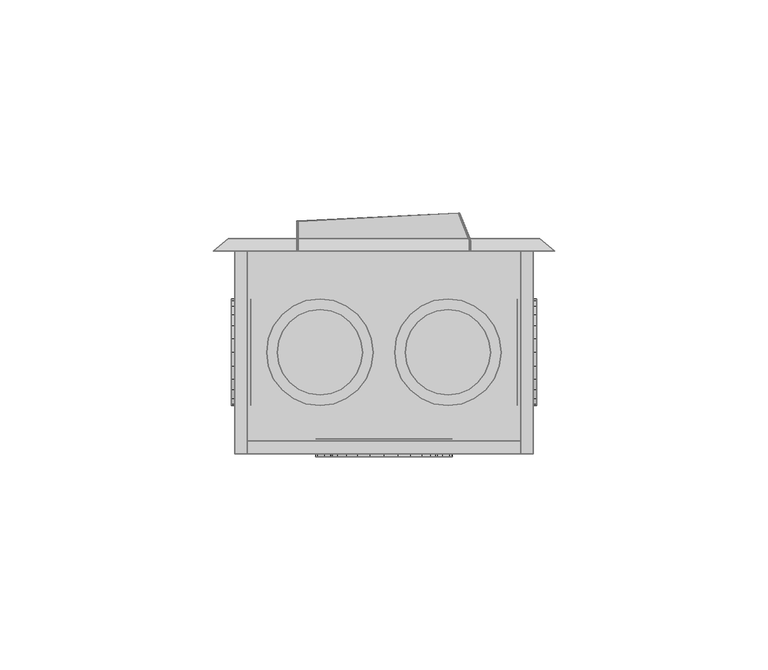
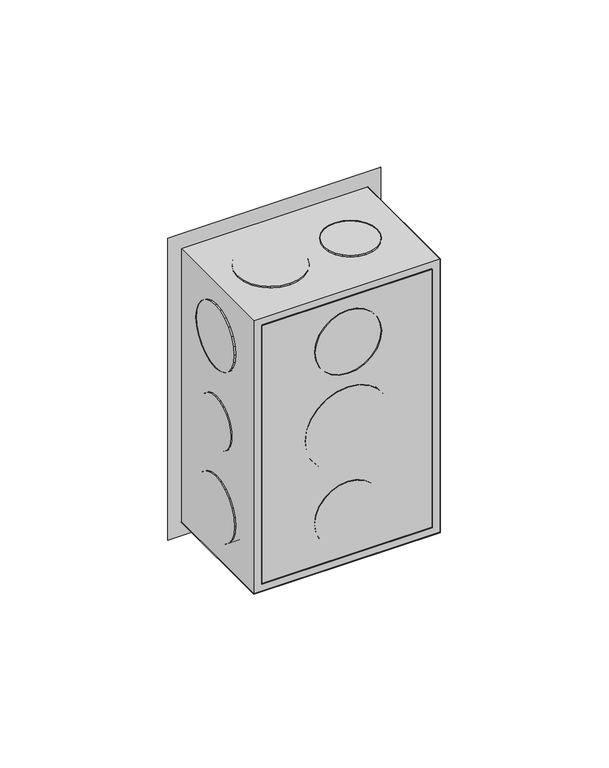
"""IFC4 building model written with IfcOpenShell, lengths in millimetres: proxy geometry,  210861 :  210861."""

from ifc_helpers import new_model, si_unit, origin, place, context, project, spatial, triangles, source, transform, mapped, element, save


def generic_models_3bf21136(model_context):
    return source(origin(), model_context, "Body", "Tessellation", [
        triangles([(5387.4002289, 29795.8998962, 1254.3000378), (5390.4000458, 29795.8998962, 1148.7000154), (5387.4002289, 29795.8998962, 1145.6999805), (5390.4000458, 29795.8998962, 1251.2999302), (5457.4000259, 29795.8998962, 1254.3000378), (5454.400209, 29795.8998962, 1251.2999302), (5457.4000259, 29795.8998962, 1145.6999805), (5454.400209, 29795.8998962, 1148.7000154), (5390.4000458, 29748.40047, 1251.2999302), (5390.4000458, 29748.40047, 1148.7000154), (5457.4000259, 29748.40047, 1254.3000378), (5457.4000259, 29748.40047, 1145.6999805), (5454.400209, 29748.40047, 1251.2999302), (5387.4002289, 29748.40047, 1145.6999805), (5454.400209, 29748.40047, 1148.7000154), (5387.4002289, 29748.40047, 1254.3000378), (5390.4000458, 29751.4002869, 1251.2999302), (5454.400209, 29751.4002869, 1148.7000154), (5390.4000458, 29751.4002869, 1148.7000154), (5454.400209, 29751.4002869, 1251.2999302), (5414.3997437, 29747.7005127, 1186.0999855), (5408.5001038, 29747.7005127, 1191.9999887), (5411.0999451, 29747.7005127, 1188.6999722), (5418.2000931, 29747.7005127, 1184.5000105), (5406.9002014, 29747.7005127, 1195.8999687), (5422.3998367, 29747.7005127, 1183.9999683), (5406.4002319, 29747.7005127, 1200.0000092), (5426.5001678, 29747.7005127, 1184.5000105), (5406.9002014, 29747.7005127, 1204.0999769), (5430.3999298, 29747.7005127, 1186.0999855), (5408.5001038, 29747.7005127, 1208.0000296), (5433.6997284, 29747.7005127, 1188.6999722), (5411.0999451, 29747.7005127, 1211.2999735), (5436.2001572, 29747.7005127, 1191.9999887), (5414.3997437, 29747.7005127, 1213.9000328), (5437.8000595, 29747.7005127, 1195.8999687), (5418.2000931, 29747.7005127, 1215.5000078), (5438.4000229, 29747.7005127, 1200.0000092), (5422.3998367, 29747.7005127, 1215.9999773), (5437.8000595, 29747.7005127, 1204.0999769), (5426.5001678, 29747.7005127, 1215.5000078), (5436.2001572, 29747.7005127, 1208.0000296), (5430.3999298, 29747.7005127, 1213.9000328), (5433.6997284, 29747.7005127, 1211.2999735), (5418.2000931, 29751.9002563, 1215.5000078), (5422.3998367, 29751.9002563, 1215.9999773), (5414.3997437, 29751.9002563, 1213.9000328), (5411.0999451, 29751.9002563, 1211.2999735), (5408.5001038, 29751.9002563, 1208.0000296), (5406.9002014, 29751.9002563, 1204.0999769), (5406.4002319, 29751.9002563, 1200.0000092), (5406.9002014, 29751.9002563, 1195.8999687), (5408.5001038, 29751.9002563, 1191.9999887), (5411.0999451, 29751.9002563, 1188.6999722), (5414.3997437, 29751.9002563, 1186.0999855), (5418.2000931, 29751.9002563, 1184.5000105), (5422.3998367, 29751.9002563, 1183.9999683), (5426.5001678, 29751.9002563, 1184.5000105), (5430.3999298, 29751.9002563, 1186.0999855), (5433.6997284, 29751.9002563, 1188.6999722), (5436.2001572, 29751.9002563, 1191.9999887), (5437.8000595, 29751.9002563, 1195.8999687), (5438.4000229, 29751.9002563, 1200.0000092), (5437.8000595, 29751.9002563, 1204.0999769), (5436.2001572, 29751.9002563, 1208.0000296), (5433.6997284, 29751.9002563, 1211.2999735), (5430.3999298, 29751.9002563, 1213.9000328), (5426.5001678, 29751.9002563, 1215.5000078), (5411.4999207, 29751.9002563, 1227.8000565), (5416.1002213, 29751.9002563, 1223.2000465), (5413.4997986, 29751.9002563, 1225.2000698), (5410.2999939, 29751.9002563, 1230.8000187), (5419.1000381, 29751.9002563, 1221.8999805), (5409.9000183, 29751.9002563, 1233.9999687), (5422.3998367, 29751.9002563, 1221.500005), (5410.2999939, 29751.9002563, 1237.2000641), (5425.6002228, 29751.9002563, 1221.8999805), (5411.4999207, 29751.9002563, 1240.3000202), (5428.6000397, 29751.9002563, 1223.2000465), (5413.4997986, 29751.9002563, 1242.800013), (5431.199881, 29751.9002563, 1225.2000698), (5433.1997589, 29751.9002563, 1227.8000565), (5416.1002213, 29751.9002563, 1244.8000362), (5419.1000381, 29751.9002563, 1246.0999569), (5434.400267, 29751.9002563, 1230.8000187), (5422.3998367, 29751.9002563, 1246.4999325), (5434.9002365, 29751.9002563, 1233.9999687), (5425.6002228, 29751.9002563, 1246.0999569), (5434.400267, 29751.9002563, 1237.2000641), (5433.1997589, 29751.9002563, 1240.3000202), (5428.6000397, 29751.9002563, 1244.8000362), (5431.199881, 29751.9002563, 1242.800013), (5434.400267, 29747.7005127, 1230.8000187), (5433.1997589, 29747.7005127, 1227.8000565), (5431.199881, 29747.7005127, 1225.2000698), (5428.6000397, 29747.7005127, 1223.2000465), (5425.6002228, 29747.7005127, 1221.8999805), (5422.3998367, 29747.7005127, 1221.500005), (5419.1000381, 29747.7005127, 1221.8999805), (5416.1002213, 29747.7005127, 1223.2000465), (5413.4997986, 29747.7005127, 1225.2000698), (5411.4999207, 29747.7005127, 1227.8000565), (5410.2999939, 29747.7005127, 1230.8000187), (5409.9000183, 29747.7005127, 1233.9999687), (5410.2999939, 29747.7005127, 1237.2000641), (5411.4999207, 29747.7005127, 1240.3000202), (5413.4997986, 29747.7005127, 1242.800013), (5416.1002213, 29747.7005127, 1244.8000362), (5419.1000381, 29747.7005127, 1246.0999569), (5422.3998367, 29747.7005127, 1246.4999325), (5425.6002228, 29747.7005127, 1246.0999569), (5428.6000397, 29747.7005127, 1244.8000362), (5431.199881, 29747.7005127, 1242.800013), (5433.1997589, 29747.7005127, 1240.3000202), (5434.400267, 29747.7005127, 1237.2000641), (5434.9002365, 29747.7005127, 1233.9999687), (5416.1002213, 29747.7005127, 1155.1999821), (5411.4999207, 29747.7005127, 1159.6999981), (5413.4997986, 29747.7005127, 1157.2000053), (5419.1000381, 29747.7005127, 1153.8999887), (5410.2999939, 29747.7005127, 1162.8000269), (5422.3998367, 29747.7005127, 1153.5000132), (5409.9000183, 29747.7005127, 1165.9999769), (5425.6002228, 29747.7005127, 1153.8999887), (5410.2999939, 29747.7005127, 1169.1999996), (5428.6000397, 29747.7005127, 1155.1999821), (5411.4999207, 29747.7005127, 1172.2000345), (5431.199881, 29747.7005127, 1157.2000053), (5413.4997986, 29747.7005127, 1174.8000212), (5433.1997589, 29747.7005127, 1159.6999981), (5416.1002213, 29747.7005127, 1176.7999718), (5434.400267, 29747.7005127, 1162.8000269), (5419.1000381, 29747.7005127, 1178.0999651), (5422.3998367, 29747.7005127, 1178.5000134), (5434.9002365, 29747.7005127, 1165.9999769), (5434.400267, 29747.7005127, 1169.1999996), (5425.6002228, 29747.7005127, 1178.0999651), (5433.1997589, 29747.7005127, 1172.2000345), (5428.6000397, 29747.7005127, 1176.7999718), (5431.199881, 29747.7005127, 1174.8000212), (5419.1000381, 29751.9002563, 1178.0999651), (5422.3998367, 29751.9002563, 1178.5000134), (5416.1002213, 29751.9002563, 1176.7999718), (5413.4997986, 29751.9002563, 1174.8000212), (5411.4999207, 29751.9002563, 1172.2000345), (5410.2999939, 29751.9002563, 1169.1999996), (5409.9000183, 29751.9002563, 1165.9999769), (5410.2999939, 29751.9002563, 1162.8000269), (5411.4999207, 29751.9002563, 1159.6999981), (5413.4997986, 29751.9002563, 1157.2000053), (5416.1002213, 29751.9002563, 1155.1999821), (5419.1000381, 29751.9002563, 1153.8999887), (5422.3998367, 29751.9002563, 1153.5000132), (5425.6002228, 29751.9002563, 1153.8999887), (5428.6000397, 29751.9002563, 1155.1999821), (5431.199881, 29751.9002563, 1157.2000053), (5433.1997589, 29751.9002563, 1159.6999981), (5434.400267, 29751.9002563, 1162.8000269), (5434.9002365, 29751.9002563, 1165.9999769), (5434.400267, 29751.9002563, 1169.1999996), (5433.1997589, 29751.9002563, 1172.2000345), (5431.199881, 29751.9002563, 1174.8000212), (5428.6000397, 29751.9002563, 1176.7999718), (5425.6002228, 29751.9002563, 1178.0999651), (5386.6002777, 29763.4995483, 1195.0000237), (5386.6002777, 29767.1993225, 1191.3000315), (5386.6002777, 29765.0994507, 1192.9000065), (5386.6002777, 29762.4996094, 1197.4000225), (5386.6002777, 29769.599176, 1190.3000198), (5386.6002777, 29762.1996277, 1200.0000092), (5386.6002777, 29772.1990173, 1189.9999655), (5386.6002777, 29762.4996094, 1202.5999958), (5386.6002777, 29774.7988586, 1190.3000198), (5386.6002777, 29763.4995483, 1204.9999947), (5386.6002777, 29777.2010376, 1191.3000315), (5386.6002777, 29765.0994507, 1207.1000118), (5386.6002777, 29779.3009094, 1192.9000065), (5386.6002777, 29767.1993225, 1208.6999868), (5386.6002777, 29780.9008118, 1195.0000237), (5386.6002777, 29769.599176, 1209.6999985), (5386.6002777, 29781.9007507, 1197.4000225), (5386.6002777, 29782.2007324, 1200.0000092), (5386.6002777, 29772.1990173, 1209.9999802), (5386.6002777, 29774.7988586, 1209.6999985), (5386.6002777, 29781.9007507, 1202.5999958), (5386.6002777, 29777.2010376, 1208.6999868), (5386.6002777, 29780.9008118, 1204.9999947), (5386.6002777, 29779.3009094, 1207.1000118), (5391.1999969, 29769.599176, 1209.6999985), (5391.1999969, 29772.1990173, 1209.9999802), (5391.1999969, 29774.7988586, 1209.6999985), (5391.1999969, 29777.2010376, 1208.6999868), (5391.1999969, 29779.3009094, 1207.1000118), (5391.1999969, 29780.9008118, 1204.9999947), (5391.1999969, 29781.9007507, 1202.5999958), (5391.1999969, 29782.2007324, 1200.0000092), (5391.1999969, 29781.9007507, 1197.4000225), (5391.1999969, 29780.9008118, 1195.0000237), (5391.1999969, 29779.3009094, 1192.9000065), (5391.1999969, 29777.2010376, 1191.3000315), (5391.1999969, 29774.7988586, 1190.3000198), (5391.1999969, 29772.1990173, 1189.9999655), (5391.1999969, 29769.599176, 1190.3000198), (5391.1999969, 29767.1993225, 1191.3000315), (5391.1999969, 29765.0994507, 1192.9000065), (5391.1999969, 29763.4995483, 1195.0000237), (5391.1999969, 29762.4996094, 1197.4000225), (5391.1999969, 29762.1996277, 1200.0000092), (5391.1999969, 29762.4996094, 1202.5999958), (5391.1999969, 29763.4995483, 1204.9999947), (5391.1999969, 29765.0994507, 1207.1000118), (5391.1999969, 29767.1993225, 1208.6999868), (5391.1999969, 29765.8994019, 1223.2000465), (5391.1999969, 29761.3996765, 1227.8000565), (5391.1999969, 29763.3995544, 1225.2000698), (5391.1999969, 29768.9992126, 1221.8999805), (5391.1999969, 29760.0997559, 1230.8000187), (5391.1999969, 29759.6997803, 1233.9999687), (5391.1999969, 29772.1990173, 1221.500005), (5391.1999969, 29775.4011475, 1221.8999805), (5391.1999969, 29760.0997559, 1237.2000641), (5391.1999969, 29761.3996765, 1240.3000202), (5391.1999969, 29778.4009644, 1223.2000465), (5391.1999969, 29781.0008057, 1225.2000698), (5391.1999969, 29763.3995544, 1242.800013), (5391.1999969, 29783.0006836, 1227.8000565), (5391.1999969, 29765.8994019, 1244.8000362), (5391.1999969, 29784.3006042, 1230.8000187), (5391.1999969, 29768.9992126, 1246.0999569), (5391.1999969, 29784.7005798, 1233.9999687), (5391.1999969, 29772.1990173, 1246.4999325), (5391.1999969, 29784.3006042, 1237.2000641), (5391.1999969, 29775.4011475, 1246.0999569), (5391.1999969, 29783.0006836, 1240.3000202), (5391.1999969, 29778.4009644, 1244.8000362), (5391.1999969, 29781.0008057, 1242.800013), (5386.6002777, 29772.1990173, 1221.500005), (5386.6002777, 29768.9992126, 1221.8999805), (5386.6002777, 29775.4011475, 1221.8999805), (5386.6002777, 29778.4009644, 1223.2000465), (5386.6002777, 29781.0008057, 1225.2000698), (5386.6002777, 29783.0006836, 1227.8000565), (5386.6002777, 29784.3006042, 1230.8000187), (5386.6002777, 29784.7005798, 1233.9999687), (5386.6002777, 29784.3006042, 1237.2000641), (5386.6002777, 29783.0006836, 1240.3000202), (5386.6002777, 29781.0008057, 1242.800013), (5386.6002777, 29778.4009644, 1244.8000362), (5386.6002777, 29775.4011475, 1246.0999569), (5386.6002777, 29772.1990173, 1246.4999325), (5386.6002777, 29768.9992126, 1246.0999569), (5386.6002777, 29765.8994019, 1244.8000362), (5386.6002777, 29763.3995544, 1242.800013), (5386.6002777, 29761.3996765, 1240.3000202), (5386.6002777, 29760.0997559, 1237.2000641), (5386.6002777, 29759.6997803, 1233.9999687), (5386.6002777, 29760.0997559, 1230.8000187), (5386.6002777, 29761.3996765, 1227.8000565), (5386.6002777, 29763.3995544, 1225.2000698), (5386.6002777, 29765.8994019, 1223.2000465), (5386.6002777, 29761.3996765, 1159.6999981), (5386.6002777, 29765.8994019, 1155.1999821), (5386.6002777, 29763.3995544, 1157.2000053), (5386.6002777, 29760.0997559, 1162.8000269), (5386.6002777, 29768.9992126, 1153.8999887), (5386.6002777, 29759.6997803, 1165.9999769), (5386.6002777, 29772.1990173, 1153.5000132), (5386.6002777, 29760.0997559, 1169.1999996), (5386.6002777, 29775.4011475, 1153.8999887), (5386.6002777, 29761.3996765, 1172.2000345), (5386.6002777, 29778.4009644, 1155.1999821), (5386.6002777, 29763.3995544, 1174.8000212), (5386.6002777, 29781.0008057, 1157.2000053), (5386.6002777, 29765.8994019, 1176.7999718), (5386.6002777, 29783.0006836, 1159.6999981), (5386.6002777, 29768.9992126, 1178.0999651), (5386.6002777, 29784.3006042, 1162.8000269), (5386.6002777, 29772.1990173, 1178.5000134), (5386.6002777, 29784.7005798, 1165.9999769), (5386.6002777, 29775.4011475, 1178.0999651), (5386.6002777, 29784.3006042, 1169.1999996), (5386.6002777, 29778.4009644, 1176.7999718), (5386.6002777, 29783.0006836, 1172.2000345), (5386.6002777, 29781.0008057, 1174.8000212), (5391.1999969, 29768.9992126, 1178.0999651), (5391.1999969, 29772.1990173, 1178.5000134), (5391.1999969, 29775.4011475, 1178.0999651), (5391.1999969, 29778.4009644, 1176.7999718), (5391.1999969, 29781.0008057, 1174.8000212), (5391.1999969, 29783.0006836, 1172.2000345), (5391.1999969, 29784.3006042, 1169.1999996), (5391.1999969, 29784.7005798, 1165.9999769), (5391.1999969, 29784.3006042, 1162.8000269), (5391.1999969, 29783.0006836, 1159.6999981), (5391.1999969, 29781.0008057, 1157.2000053), (5391.1999969, 29778.4009644, 1155.1999821), (5391.1999969, 29775.4011475, 1153.8999887), (5391.1999969, 29772.1990173, 1153.5000132), (5391.1999969, 29768.9992126, 1153.8999887), (5391.1999969, 29765.8994019, 1155.1999821), (5391.1999969, 29763.3995544, 1157.2000053), (5391.1999969, 29761.3996765, 1159.6999981), (5391.1999969, 29760.0997559, 1162.8000269), (5391.1999969, 29759.6997803, 1165.9999769), (5391.1999969, 29760.0997559, 1169.1999996), (5391.1999969, 29761.3996765, 1172.2000345), (5391.1999969, 29763.3995544, 1174.8000212), (5391.1999969, 29765.8994019, 1176.7999718), (5458.1999771, 29767.1993225, 1191.3000315), (5458.1999771, 29763.4995483, 1195.0000237), (5458.1999771, 29765.0994507, 1192.9000065), (5458.1999771, 29762.4996094, 1197.4000225), (5458.1999771, 29769.599176, 1190.3000198), (5458.1999771, 29762.1996277, 1200.0000092), (5458.1999771, 29772.1990173, 1189.9999655), (5458.1999771, 29774.7988586, 1190.3000198), (5458.1999771, 29762.4996094, 1202.5999958), (5458.1999771, 29763.4995483, 1204.9999947), (5458.1999771, 29777.2010376, 1191.3000315), (5458.1999771, 29765.0994507, 1207.1000118), (5458.1999771, 29779.3009094, 1192.9000065), (5458.1999771, 29780.9008118, 1195.0000237), (5458.1999771, 29767.1993225, 1208.6999868), (5458.1999771, 29781.9007507, 1197.4000225), (5458.1999771, 29769.599176, 1209.6999985), (5458.1999771, 29782.2007324, 1200.0000092), (5458.1999771, 29772.1990173, 1209.9999802), (5458.1999771, 29781.9007507, 1202.5999958), (5458.1999771, 29774.7988586, 1209.6999985), (5458.1999771, 29777.2010376, 1208.6999868), (5458.1999771, 29780.9008118, 1204.9999947), (5458.1999771, 29779.3009094, 1207.1000118), (5453.6002579, 29769.599176, 1190.3000198), (5453.6002579, 29767.1993225, 1191.3000315), (5453.6002579, 29772.1990173, 1189.9999655), (5453.6002579, 29774.7988586, 1190.3000198), (5453.6002579, 29777.2010376, 1191.3000315), (5453.6002579, 29779.3009094, 1192.9000065), (5453.6002579, 29780.9008118, 1195.0000237), (5453.6002579, 29781.9007507, 1197.4000225), (5453.6002579, 29782.2007324, 1200.0000092), (5453.6002579, 29781.9007507, 1202.5999958), (5453.6002579, 29780.9008118, 1204.9999947), (5453.6002579, 29779.3009094, 1207.1000118), (5453.6002579, 29777.2010376, 1208.6999868), (5453.6002579, 29774.7988586, 1209.6999985), (5453.6002579, 29772.1990173, 1209.9999802), (5453.6002579, 29769.599176, 1209.6999985), (5453.6002579, 29767.1993225, 1208.6999868), (5453.6002579, 29765.0994507, 1207.1000118), (5453.6002579, 29763.4995483, 1204.9999947), (5453.6002579, 29762.4996094, 1202.5999958), (5453.6002579, 29762.1996277, 1200.0000092), (5453.6002579, 29762.4996094, 1197.4000225), (5453.6002579, 29763.4995483, 1195.0000237), (5453.6002579, 29765.0994507, 1192.9000065), (5453.6002579, 29761.3996765, 1159.6999981), (5453.6002579, 29765.8994019, 1155.1999821), (5453.6002579, 29763.3995544, 1157.2000053), (5453.6002579, 29760.0997559, 1162.8000269), (5453.6002579, 29768.9992126, 1153.8999887), (5453.6002579, 29759.6997803, 1165.9999769), (5453.6002579, 29772.1990173, 1153.5000132), (5453.6002579, 29760.0997559, 1169.1999996), (5453.6002579, 29775.4011475, 1153.8999887), (5453.6002579, 29761.3996765, 1172.2000345), (5453.6002579, 29778.4009644, 1155.1999821), (5453.6002579, 29763.3995544, 1174.8000212), (5453.6002579, 29781.0008057, 1157.2000053), (5453.6002579, 29765.8994019, 1176.7999718), (5453.6002579, 29783.0006836, 1159.6999981), (5453.6002579, 29768.9992126, 1178.0999651), (5453.6002579, 29784.3006042, 1162.8000269), (5453.6002579, 29772.1990173, 1178.5000134), (5453.6002579, 29784.7005798, 1165.9999769), (5453.6002579, 29775.4011475, 1178.0999651), (5453.6002579, 29784.3006042, 1169.1999996), (5453.6002579, 29778.4009644, 1176.7999718), (5453.6002579, 29783.0006836, 1172.2000345), (5453.6002579, 29781.0008057, 1174.8000212), (5458.1999771, 29768.9992126, 1178.0999651), (5458.1999771, 29772.1990173, 1178.5000134), (5458.1999771, 29775.4011475, 1178.0999651), (5458.1999771, 29778.4009644, 1176.7999718), (5458.1999771, 29781.0008057, 1174.8000212), (5458.1999771, 29783.0006836, 1172.2000345), (5458.1999771, 29784.3006042, 1169.1999996), (5458.1999771, 29784.7005798, 1165.9999769), (5458.1999771, 29784.3006042, 1162.8000269), (5458.1999771, 29783.0006836, 1159.6999981), (5458.1999771, 29781.0008057, 1157.2000053), (5458.1999771, 29778.4009644, 1155.1999821), (5458.1999771, 29775.4011475, 1153.8999887), (5458.1999771, 29772.1990173, 1153.5000132), (5458.1999771, 29768.9992126, 1153.8999887), (5458.1999771, 29765.8994019, 1155.1999821), (5458.1999771, 29763.3995544, 1157.2000053), (5458.1999771, 29761.3996765, 1159.6999981), (5458.1999771, 29760.0997559, 1162.8000269), (5458.1999771, 29759.6997803, 1165.9999769), (5458.1999771, 29760.0997559, 1169.1999996), (5458.1999771, 29761.3996765, 1172.2000345), (5458.1999771, 29763.3995544, 1174.8000212), (5458.1999771, 29765.8994019, 1176.7999718), (5458.1999771, 29765.8994019, 1223.2000465), (5458.1999771, 29761.3996765, 1227.8000565), (5458.1999771, 29763.3995544, 1225.2000698), (5458.1999771, 29768.9992126, 1221.8999805), (5458.1999771, 29760.0997559, 1230.8000187), (5458.1999771, 29759.6997803, 1233.9999687), (5458.1999771, 29772.1990173, 1221.500005), (5458.1999771, 29775.4011475, 1221.8999805), (5458.1999771, 29760.0997559, 1237.2000641), (5458.1999771, 29761.3996765, 1240.3000202), (5458.1999771, 29778.4009644, 1223.2000465), (5458.1999771, 29781.0008057, 1225.2000698), (5458.1999771, 29763.3995544, 1242.800013), (5458.1999771, 29783.0006836, 1227.8000565), (5458.1999771, 29765.8994019, 1244.8000362), (5458.1999771, 29784.3006042, 1230.8000187), (5458.1999771, 29768.9992126, 1246.0999569), (5458.1999771, 29784.7005798, 1233.9999687), (5458.1999771, 29772.1990173, 1246.4999325), (5458.1999771, 29784.3006042, 1237.2000641), (5458.1999771, 29775.4011475, 1246.0999569), (5458.1999771, 29783.0006836, 1240.3000202), (5458.1999771, 29778.4009644, 1244.8000362), (5458.1999771, 29781.0008057, 1242.800013), (5453.6002579, 29772.1990173, 1221.500005), (5453.6002579, 29768.9992126, 1221.8999805), (5453.6002579, 29775.4011475, 1221.8999805), (5453.6002579, 29778.4009644, 1223.2000465), (5453.6002579, 29781.0008057, 1225.2000698), (5453.6002579, 29783.0006836, 1227.8000565), (5453.6002579, 29784.3006042, 1230.8000187), (5453.6002579, 29784.7005798, 1233.9999687), (5453.6002579, 29784.3006042, 1237.2000641), (5453.6002579, 29783.0006836, 1240.3000202), (5453.6002579, 29781.0008057, 1242.800013), (5453.6002579, 29778.4009644, 1244.8000362), (5453.6002579, 29775.4011475, 1246.0999569), (5453.6002579, 29772.1990173, 1246.4999325), (5453.6002579, 29768.9992126, 1246.0999569), (5453.6002579, 29765.8994019, 1244.8000362), (5453.6002579, 29763.3995544, 1242.800013), (5453.6002579, 29761.3996765, 1240.3000202), (5453.6002579, 29760.0997559, 1237.2000641), (5453.6002579, 29759.6997803, 1233.9999687), (5453.6002579, 29760.0997559, 1230.8000187), (5453.6002579, 29761.3996765, 1227.8000565), (5453.6002579, 29763.3995544, 1225.2000698), (5453.6002579, 29765.8994019, 1223.2000465), (5401.0999741, 29761.3996765, 1255.1999828), (5396.5002548, 29765.8994019, 1255.1999828), (5398.5001328, 29763.3995544, 1255.1999828), (5395.2997467, 29768.9992126, 1255.1999828), (5404.099791, 29760.0997559, 1255.1999828), (5407.4001709, 29759.6997803, 1255.1999828), (5394.8997711, 29772.1990173, 1255.1999828), (5395.2997467, 29775.4011475, 1255.1999828), (5410.5999756, 29760.0997559, 1255.1999828), (5413.5997925, 29761.3996765, 1255.1999828), (5396.5002548, 29778.4009644, 1255.1999828), (5398.5001328, 29781.0008057, 1255.1999828), (5416.2002151, 29763.3995544, 1255.1999828), (5418.2000931, 29765.8994019, 1255.1999828), (5401.0999741, 29783.0006836, 1255.1999828), (5404.099791, 29784.3006042, 1255.1999828), (5419.4000198, 29768.9992126, 1255.1999828), (5407.4001709, 29784.7005798, 1255.1999828), (5419.8999893, 29772.1990173, 1255.1999828), (5410.5999756, 29784.3006042, 1255.1999828), (5419.4000198, 29775.4011475, 1255.1999828), (5418.2000931, 29778.4009644, 1255.1999828), (5413.5997925, 29783.0006836, 1255.1999828), (5416.2002151, 29781.0008057, 1255.1999828), (5407.4001709, 29784.7005798, 1250.9999485), (5404.099791, 29784.3006042, 1250.9999485), (5401.0999741, 29783.0006836, 1250.9999485), (5398.5001328, 29781.0008057, 1250.9999485), (5396.5002548, 29778.4009644, 1250.9999485), (5395.2997467, 29775.4011475, 1250.9999485), (5394.8997711, 29772.1990173, 1250.9999485), (5395.2997467, 29768.9992126, 1250.9999485), (5396.5002548, 29765.8994019, 1250.9999485), (5398.5001328, 29763.3995544, 1250.9999485), (5401.0999741, 29761.3996765, 1250.9999485), (5404.099791, 29760.0997559, 1250.9999485), (5407.4001709, 29759.6997803, 1250.9999485), (5410.5999756, 29760.0997559, 1250.9999485), (5413.5997925, 29761.3996765, 1250.9999485), (5416.2002151, 29763.3995544, 1250.9999485), (5418.2000931, 29765.8994019, 1250.9999485), (5419.4000198, 29768.9992126, 1250.9999485), (5419.8999893, 29772.1990173, 1250.9999485), (5419.4000198, 29775.4011475, 1250.9999485), (5418.2000931, 29778.4009644, 1250.9999485), (5416.2002151, 29781.0008057, 1250.9999485), (5413.5997925, 29783.0006836, 1250.9999485), (5410.5999756, 29784.3006042, 1250.9999485), (5428.7000336, 29767.1993225, 1250.9999485), (5432.3998077, 29763.4995483, 1250.9999485), (5430.2999359, 29765.0994507, 1250.9999485), (5434.8002426, 29762.4996094, 1250.9999485), (5427.7000946, 29769.599176, 1250.9999485), (5437.4000839, 29762.1996277, 1250.9999485), (5427.4001129, 29772.1990173, 1250.9999485), (5427.7000946, 29774.7988586, 1250.9999485), (5439.9999252, 29762.4996094, 1250.9999485), (5442.3997787, 29763.4995483, 1250.9999485), (5428.7000336, 29777.2010376, 1250.9999485), (5444.400238, 29765.0994507, 1250.9999485), (5430.2999359, 29779.3009094, 1250.9999485), (5432.3998077, 29780.9008118, 1250.9999485), (5446.0001404, 29767.1993225, 1250.9999485), (5447.0000793, 29769.599176, 1250.9999485), (5434.8002426, 29781.9007507, 1250.9999485), (5437.4000839, 29782.2007324, 1250.9999485), (5447.4000549, 29772.1990173, 1250.9999485), (5439.9999252, 29781.9007507, 1250.9999485), (5447.0000793, 29774.7988586, 1250.9999485), (5442.3997787, 29780.9008118, 1250.9999485), (5446.0001404, 29777.2010376, 1250.9999485), (5444.400238, 29779.3009094, 1250.9999485), (5439.9999252, 29762.4996094, 1255.1999828), (5442.3997787, 29763.4995483, 1255.1999828), (5437.4000839, 29762.1996277, 1255.1999828), (5434.8002426, 29762.4996094, 1255.1999828), (5432.3998077, 29763.4995483, 1255.1999828), (5430.2999359, 29765.0994507, 1255.1999828), (5428.7000336, 29767.1993225, 1255.1999828), (5427.7000946, 29769.599176, 1255.1999828), (5427.4001129, 29772.1990173, 1255.1999828), (5427.7000946, 29774.7988586, 1255.1999828), (5428.7000336, 29777.2010376, 1255.1999828), (5430.2999359, 29779.3009094, 1255.1999828), (5432.3998077, 29780.9008118, 1255.1999828), (5434.8002426, 29781.9007507, 1255.1999828), (5437.4000839, 29782.2007324, 1255.1999828), (5439.9999252, 29781.9007507, 1255.1999828), (5442.3997787, 29780.9008118, 1255.1999828), (5444.400238, 29779.3009094, 1255.1999828), (5446.0001404, 29777.2010376, 1255.1999828), (5447.0000793, 29774.7988586, 1255.1999828), (5447.4000549, 29772.1990173, 1255.1999828), (5447.0000793, 29769.599176, 1255.1999828), (5446.0001404, 29767.1993225, 1255.1999828), (5444.400238, 29765.0994507, 1255.1999828), (5398.7001205, 29767.1993225, 1144.8000355), (5402.3998947, 29763.4995483, 1144.8000355), (5400.3000229, 29765.0994507, 1144.8000355), (5404.7997482, 29762.4996094, 1144.8000355), (5397.7001816, 29769.599176, 1144.8000355), (5407.4001709, 29762.1996277, 1144.8000355), (5397.4001999, 29772.1990173, 1144.8000355), (5397.7001816, 29774.7988586, 1144.8000355), (5410.0000122, 29762.4996094, 1144.8000355), (5412.3998657, 29763.4995483, 1144.8000355), (5398.7001205, 29777.2010376, 1144.8000355), (5414.3997437, 29765.0994507, 1144.8000355), (5400.3000229, 29779.3009094, 1144.8000355), (5402.3998947, 29780.9008118, 1144.8000355), (5416.0002274, 29767.1993225, 1144.8000355), (5417.0001663, 29769.599176, 1144.8000355), (5404.7997482, 29781.9007507, 1144.8000355), (5407.4001709, 29782.2007324, 1144.8000355), (5417.4001419, 29772.1990173, 1144.8000355), (5410.0000122, 29781.9007507, 1144.8000355), (5417.0001663, 29774.7988586, 1144.8000355), (5412.3998657, 29780.9008118, 1144.8000355), (5416.0002274, 29777.2010376, 1144.8000355), (5414.3997437, 29779.3009094, 1144.8000355), (5404.7997482, 29762.4996094, 1149.099991), (5407.4001709, 29762.1996277, 1149.099991), (5402.3998947, 29763.4995483, 1149.099991), (5400.3000229, 29765.0994507, 1149.099991), (5398.7001205, 29767.1993225, 1149.099991), (5397.7001816, 29769.599176, 1149.099991), (5397.4001999, 29772.1990173, 1149.099991), (5397.7001816, 29774.7988586, 1149.099991), (5398.7001205, 29777.2010376, 1149.099991), (5400.3000229, 29779.3009094, 1149.099991), (5402.3998947, 29780.9008118, 1149.099991), (5404.7997482, 29781.9007507, 1149.099991), (5407.4001709, 29782.2007324, 1149.099991), (5410.0000122, 29781.9007507, 1149.099991), (5412.3998657, 29780.9008118, 1149.099991), (5414.3997437, 29779.3009094, 1149.099991), (5416.0002274, 29777.2010376, 1149.099991), (5417.0001663, 29774.7988586, 1149.099991), (5417.4001419, 29772.1990173, 1149.099991), (5417.0001663, 29769.599176, 1149.099991), (5416.0002274, 29767.1993225, 1149.099991), (5414.3997437, 29765.0994507, 1149.099991), (5412.3998657, 29763.4995483, 1149.099991), (5410.0000122, 29762.4996094, 1149.099991), (5426.5001678, 29765.8994019, 1144.8000355), (5431.0998871, 29761.3996765, 1144.8000355), (5428.5000458, 29763.3995544, 1144.8000355), (5425.3002411, 29768.9992126, 1144.8000355), (5434.1002853, 29760.0997559, 1144.8000355), (5437.4000839, 29759.6997803, 1144.8000355), (5424.9002655, 29772.1990173, 1144.8000355), (5425.3002411, 29775.4011475, 1144.8000355), (5440.5998886, 29760.0997559, 1144.8000355), (5443.6002869, 29761.3996765, 1144.8000355), (5426.5001678, 29778.4009644, 1144.8000355), (5428.5000458, 29781.0008057, 1144.8000355), (5446.2001282, 29763.3995544, 1144.8000355), (5448.2000061, 29765.8994019, 1144.8000355), (5431.0998871, 29783.0006836, 1144.8000355), (5434.1002853, 29784.3006042, 1144.8000355), (5449.3999329, 29768.9992126, 1144.8000355), (5437.4000839, 29784.7005798, 1144.8000355), (5449.8999023, 29772.1990173, 1144.8000355), (5440.5998886, 29784.3006042, 1144.8000355), (5449.3999329, 29775.4011475, 1144.8000355), (5448.2000061, 29778.4009644, 1144.8000355), (5443.6002869, 29783.0006836, 1144.8000355), (5446.2001282, 29781.0008057, 1144.8000355), (5440.5998886, 29760.0997559, 1149.099991), (5443.6002869, 29761.3996765, 1149.099991), (5437.4000839, 29759.6997803, 1149.099991), (5434.1002853, 29760.0997559, 1149.099991), (5431.0998871, 29761.3996765, 1149.099991), (5428.5000458, 29763.3995544, 1149.099991), (5426.5001678, 29765.8994019, 1149.099991), (5425.3002411, 29768.9992126, 1149.099991), (5424.9002655, 29772.1990173, 1149.099991), (5425.3002411, 29775.4011475, 1149.099991), (5426.5001678, 29778.4009644, 1149.099991), (5428.5000458, 29781.0008057, 1149.099991), (5431.0998871, 29783.0006836, 1149.099991), (5434.1002853, 29784.3006042, 1149.099991), (5437.4000839, 29784.7005798, 1149.099991), (5440.5998886, 29784.3006042, 1149.099991), (5443.6002869, 29783.0006836, 1149.099991), (5446.2001282, 29781.0008057, 1149.099991), (5448.2000061, 29778.4009644, 1149.099991), (5449.3999329, 29775.4011475, 1149.099991), (5449.8999023, 29772.1990173, 1149.099991), (5449.3999329, 29768.9992126, 1149.099991), (5448.2000061, 29765.8994019, 1149.099991), (5446.2001282, 29763.3995544, 1149.099991), (5462.3997208, 29795.8998962, 1139.9999651), (5402.1999069, 29795.8998962, 1164.5999897), (5382.3999527, 29795.8998962, 1139.9999651), (5442.5997665, 29795.8998962, 1164.5999897), (5462.3997208, 29795.8998962, 1259.9999805), (5442.5997665, 29795.8998962, 1188.0000149), (5442.5997665, 29795.8998962, 1211.3999674), (5442.5997665, 29795.8998962, 1234.8000652), (5382.3999527, 29795.8998962, 1259.9999805), (5402.1999069, 29795.8998962, 1188.0000149), (5402.1999069, 29795.8998962, 1211.3999674), (5402.1999069, 29795.8998962, 1234.8000652), (5402.1999069, 29798.8997131, 1188.0000149), (5442.5997665, 29798.8997131, 1188.0000149), (5402.1999069, 29798.8997131, 1234.8000652), (5442.5997665, 29798.8997131, 1234.8000652), (5442.5997665, 29798.8997131, 1164.5999897), (5442.5997665, 29798.8997131, 1211.3999674), (5402.1999069, 29798.8997131, 1164.5999897), (5402.1999069, 29798.8997131, 1211.3999674), (5385.8997391, 29798.8997131, 1143.4999695), (5385.8997391, 29798.8997131, 1256.5000488), (5458.8999344, 29798.8997131, 1143.4999695), (5458.8999344, 29798.8997131, 1256.5000488), (5402.2999008, 29802.899469, 1211.2999735), (5442.6997604, 29795.8998962, 1211.2999735), (5402.2999008, 29795.8998962, 1211.2999735), (5440.0999191, 29804.799353, 1211.2999735), (5442.6997604, 29798.3997437, 1211.2999735), (5402.2999008, 29795.8998962, 1234.7000713), (5442.6997604, 29795.8998962, 1234.7000713), (5402.2999008, 29802.899469, 1234.7000713), (5440.0999191, 29804.799353, 1234.7000713), (5442.6997604, 29798.3997437, 1234.7000713), (5401.9999191, 29802.899469, 1164.6999836), (5442.3997787, 29795.8998962, 1164.6999836), (5401.9999191, 29795.8998962, 1164.6999836), (5439.7999374, 29804.799353, 1164.6999836), (5442.3997787, 29798.3997437, 1164.6999836), (5401.9999191, 29795.8998962, 1188.1000088), (5442.3997787, 29795.8998962, 1188.1000088), (5401.9999191, 29802.899469, 1188.1000088), (5439.7999374, 29804.799353, 1188.1000088), (5442.3997787, 29798.3997437, 1188.1000088)], [[1, 2, 3], [2, 1, 4], [5, 4, 1], [4, 5, 6], [3, 2, 7], [7, 2, 8], [7, 8, 6], [7, 6, 5], [2, 9, 10], [9, 2, 4], [7, 11, 12], [11, 7, 5], [4, 13, 9], [13, 4, 6], [3, 12, 14], [12, 3, 7], [13, 8, 15], [8, 13, 6], [16, 3, 14], [3, 16, 1], [15, 2, 10], [2, 15, 8], [11, 1, 16], [1, 11, 5], [12, 10, 14], [10, 12, 15], [11, 15, 12], [15, 11, 13], [14, 10, 16], [16, 10, 9], [16, 9, 13], [16, 13, 11], [17, 18, 19], [18, 17, 20], [18, 13, 15], [13, 18, 20], [19, 15, 10], [15, 19, 18], [9, 19, 10], [19, 9, 17], [13, 17, 9], [17, 13, 20], [15, 9, 10], [9, 15, 13], [21, 22, 23], [22, 21, 24], [25, 22, 24], [25, 24, 26], [27, 25, 26], [27, 26, 28], [29, 27, 28], [29, 28, 30], [31, 29, 30], [31, 30, 32], [31, 32, 33], [33, 32, 34], [33, 34, 35], [35, 34, 36], [35, 36, 37], [37, 36, 38], [37, 38, 39], [39, 38, 40], [39, 40, 41], [41, 40, 42], [41, 42, 43], [43, 42, 44], [39, 45, 37], [45, 39, 46], [37, 47, 35], [47, 37, 45], [35, 48, 33], [48, 35, 47], [33, 49, 31], [49, 33, 48], [31, 50, 29], [50, 31, 49], [29, 51, 27], [51, 29, 50], [27, 52, 25], [52, 27, 51], [25, 53, 22], [53, 25, 52], [22, 54, 23], [54, 22, 53], [54, 21, 23], [21, 54, 55], [55, 24, 21], [24, 55, 56], [56, 26, 24], [26, 56, 57], [57, 28, 26], [28, 57, 58], [58, 30, 28], [30, 58, 59], [59, 32, 30], [32, 59, 60], [60, 34, 32], [34, 60, 61], [61, 36, 34], [36, 61, 62], [62, 38, 36], [38, 62, 63], [63, 40, 38], [40, 63, 64], [64, 42, 40], [42, 64, 65], [65, 44, 42], [44, 65, 66], [44, 67, 43], [67, 44, 66], [43, 68, 41], [68, 43, 67], [41, 46, 39], [46, 41, 68], [53, 55, 54], [55, 53, 52], [56, 55, 52], [56, 52, 51], [57, 56, 51], [57, 51, 50], [58, 57, 50], [58, 50, 49], [59, 58, 49], [59, 49, 48], [59, 48, 60], [60, 48, 47], [60, 47, 61], [61, 47, 45], [61, 45, 62], [62, 45, 46], [62, 46, 63], [63, 46, 68], [63, 68, 64], [64, 68, 67], [64, 67, 65], [65, 67, 66], [69, 70, 71], [70, 69, 72], [73, 70, 72], [73, 72, 74], [75, 73, 74], [75, 74, 76], [77, 75, 76], [77, 76, 78], [79, 77, 78], [79, 78, 80], [81, 79, 80], [81, 80, 82], [82, 80, 83], [82, 83, 84], [82, 84, 85], [85, 84, 86], [85, 86, 87], [87, 86, 88], [87, 88, 89], [89, 88, 90], [90, 88, 91], [90, 91, 92], [82, 93, 94], [93, 82, 85], [81, 94, 95], [94, 81, 82], [79, 95, 96], [95, 79, 81], [77, 96, 97], [96, 77, 79], [75, 97, 98], [97, 75, 77], [73, 98, 99], [98, 73, 75], [70, 99, 100], [99, 70, 73], [71, 100, 101], [100, 71, 70], [102, 71, 101], [71, 102, 69], [103, 69, 102], [69, 103, 72], [104, 72, 103], [72, 104, 74], [105, 74, 104], [74, 105, 76], [106, 76, 105], [76, 106, 78], [107, 78, 106], [78, 107, 80], [108, 80, 107], [80, 108, 83], [109, 83, 108], [83, 109, 84], [110, 84, 109], [84, 110, 86], [111, 86, 110], [86, 111, 88], [112, 88, 111], [88, 112, 91], [113, 91, 112], [91, 113, 92], [90, 113, 114], [113, 90, 92], [89, 114, 115], [114, 89, 90], [87, 115, 116], [115, 87, 89], [85, 116, 93], [116, 85, 87], [100, 102, 101], [102, 100, 99], [103, 102, 99], [103, 99, 98], [104, 103, 98], [104, 98, 97], [105, 104, 97], [106, 105, 97], [106, 97, 96], [106, 96, 95], [106, 95, 107], [107, 95, 94], [107, 94, 108], [108, 94, 93], [108, 93, 109], [109, 93, 116], [109, 116, 110], [110, 116, 115], [110, 115, 111], [111, 115, 114], [111, 114, 112], [112, 114, 113], [117, 118, 119], [118, 117, 120], [121, 118, 120], [121, 120, 122], [123, 121, 122], [123, 122, 124], [125, 123, 124], [125, 124, 126], [127, 125, 126], [127, 126, 128], [127, 128, 129], [129, 128, 130], [129, 130, 131], [131, 130, 132], [131, 132, 133], [133, 132, 134], [134, 132, 135], [134, 135, 136], [134, 136, 137], [137, 136, 138], [137, 138, 139], [139, 138, 140], [134, 141, 133], [141, 134, 142], [133, 143, 131], [143, 133, 141], [131, 144, 129], [144, 131, 143], [129, 145, 127], [145, 129, 144], [127, 146, 125], [146, 127, 145], [125, 147, 123], [147, 125, 146], [123, 148, 121], [148, 123, 147], [121, 149, 118], [149, 121, 148], [118, 150, 119], [150, 118, 149], [150, 117, 119], [117, 150, 151], [151, 120, 117], [120, 151, 152], [152, 122, 120], [122, 152, 153], [153, 124, 122], [124, 153, 154], [154, 126, 124], [126, 154, 155], [155, 128, 126], [128, 155, 156], [156, 130, 128], [130, 156, 157], [157, 132, 130], [132, 157, 158], [158, 135, 132], [135, 158, 159], [159, 136, 135], [136, 159, 160], [160, 138, 136], [138, 160, 161], [161, 140, 138], [140, 161, 162], [140, 163, 139], [163, 140, 162], [139, 164, 137], [164, 139, 163], [137, 142, 134], [142, 137, 164], [149, 151, 150], [151, 149, 148], [152, 151, 148], [153, 152, 148], [153, 148, 147], [153, 147, 146], [154, 153, 146], [154, 146, 145], [155, 154, 145], [155, 145, 144], [156, 155, 144], [156, 144, 157], [157, 144, 143], [157, 143, 141], [157, 141, 158], [158, 141, 142], [158, 142, 159], [159, 142, 164], [159, 164, 160], [160, 164, 163], [160, 163, 161], [161, 163, 162], [165, 166, 167], [166, 165, 168], [169, 166, 168], [169, 168, 170], [171, 169, 170], [171, 170, 172], [173, 171, 172], [173, 172, 174], [175, 173, 174], [175, 174, 176], [177, 175, 176], [177, 176, 178], [177, 178, 179], [179, 178, 180], [179, 180, 181], [181, 180, 182], [182, 180, 183], [182, 183, 184], [182, 184, 185], [185, 184, 186], [185, 186, 187], [187, 186, 188], [189, 183, 180], [183, 189, 190], [190, 184, 183], [184, 190, 191], [191, 186, 184], [186, 191, 192], [192, 188, 186], [188, 192, 193], [188, 194, 187], [194, 188, 193], [187, 195, 185], [195, 187, 194], [185, 196, 182], [196, 185, 195], [182, 197, 181], [197, 182, 196], [181, 198, 179], [198, 181, 197], [179, 199, 177], [199, 179, 198], [177, 200, 175], [200, 177, 199], [175, 201, 173], [201, 175, 200], [173, 202, 171], [202, 173, 201], [171, 203, 169], [203, 171, 202], [169, 204, 166], [204, 169, 203], [166, 205, 167], [205, 166, 204], [205, 165, 167], [165, 205, 206], [206, 168, 165], [168, 206, 207], [207, 170, 168], [170, 207, 208], [208, 172, 170], [172, 208, 209], [209, 174, 172], [174, 209, 210], [210, 176, 174], [176, 210, 211], [211, 178, 176], [178, 211, 212], [212, 180, 178], [180, 212, 189], [204, 206, 205], [207, 206, 204], [207, 204, 203], [208, 207, 203], [208, 203, 202], [208, 202, 201], [209, 208, 201], [210, 209, 201], [210, 201, 200], [211, 210, 200], [211, 200, 199], [211, 199, 198], [211, 198, 212], [212, 198, 197], [212, 197, 189], [189, 197, 196], [189, 196, 190], [190, 196, 195], [190, 195, 191], [191, 195, 192], [192, 195, 194], [192, 194, 193], [213, 214, 215], [214, 213, 216], [217, 214, 216], [218, 217, 216], [218, 216, 219], [218, 219, 220], [221, 218, 220], [222, 221, 220], [222, 220, 223], [222, 223, 224], [222, 224, 225], [225, 224, 226], [225, 226, 227], [227, 226, 228], [227, 228, 229], [229, 228, 230], [229, 230, 231], [231, 230, 232], [231, 232, 233], [233, 232, 234], [233, 234, 235], [235, 234, 236], [237, 216, 238], [216, 237, 219], [239, 219, 237], [219, 239, 220], [240, 220, 239], [220, 240, 223], [241, 223, 240], [223, 241, 224], [242, 224, 241], [224, 242, 226], [243, 226, 242], [226, 243, 228], [244, 228, 243], [228, 244, 230], [245, 230, 244], [230, 245, 232], [246, 232, 245], [232, 246, 234], [247, 234, 246], [234, 247, 236], [235, 247, 248], [247, 235, 236], [233, 248, 249], [248, 233, 235], [231, 249, 250], [249, 231, 233], [229, 250, 251], [250, 229, 231], [227, 251, 252], [251, 227, 229], [225, 252, 253], [252, 225, 227], [222, 253, 254], [253, 222, 225], [221, 254, 255], [254, 221, 222], [218, 255, 256], [255, 218, 221], [217, 256, 257], [256, 217, 218], [214, 257, 258], [257, 214, 217], [215, 258, 259], [258, 215, 214], [260, 215, 259], [215, 260, 213], [238, 213, 260], [213, 238, 216], [258, 260, 259], [260, 258, 257], [238, 260, 257], [238, 257, 256], [237, 238, 256], [237, 256, 255], [239, 237, 255], [239, 255, 254], [240, 239, 254], [240, 254, 253], [240, 253, 241], [241, 253, 252], [241, 252, 242], [242, 252, 251], [242, 251, 243], [243, 251, 244], [244, 251, 250], [244, 250, 249], [244, 249, 245], [245, 249, 246], [246, 249, 248], [246, 248, 247], [261, 262, 263], [262, 261, 264], [265, 262, 264], [265, 264, 266], [267, 265, 266], [267, 266, 268], [269, 267, 268], [269, 268, 270], [271, 269, 270], [271, 270, 272], [271, 272, 273], [273, 272, 274], [273, 274, 275], [275, 274, 276], [275, 276, 277], [277, 276, 278], [277, 278, 279], [279, 278, 280], [279, 280, 281], [281, 280, 282], [281, 282, 283], [283, 282, 284], [285, 278, 276], [278, 285, 286], [286, 280, 278], [280, 286, 287], [287, 282, 280], [282, 287, 288], [288, 284, 282], [284, 288, 289], [284, 290, 283], [290, 284, 289], [283, 291, 281], [291, 283, 290], [281, 292, 279], [292, 281, 291], [279, 293, 277], [293, 279, 292], [277, 294, 275], [294, 277, 293], [275, 295, 273], [295, 275, 294], [273, 296, 271], [296, 273, 295], [271, 297, 269], [297, 271, 296], [269, 298, 267], [298, 269, 297], [267, 299, 265], [299, 267, 298], [265, 300, 262], [300, 265, 299], [262, 301, 263], [301, 262, 300], [301, 261, 263], [261, 301, 302], [302, 264, 261], [264, 302, 303], [303, 266, 264], [266, 303, 304], [304, 268, 266], [268, 304, 305], [305, 270, 268], [270, 305, 306], [306, 272, 270], [272, 306, 307], [307, 274, 272], [274, 307, 308], [308, 276, 274], [276, 308, 285], [300, 302, 301], [302, 300, 299], [303, 302, 299], [303, 299, 298], [304, 303, 298], [304, 298, 297], [305, 304, 297], [305, 297, 296], [306, 305, 296], [306, 296, 295], [306, 295, 307], [307, 295, 294], [307, 294, 308], [308, 294, 293], [308, 293, 285], [285, 293, 286], [286, 293, 292], [286, 292, 291], [286, 291, 287], [287, 291, 288], [288, 291, 290], [288, 290, 289], [309, 310, 311], [312, 310, 309], [312, 309, 313], [314, 312, 313], [314, 313, 315], [314, 315, 316], [317, 314, 316], [318, 317, 316], [318, 316, 319], [320, 318, 319], [320, 319, 321], [320, 321, 322], [320, 322, 323], [323, 322, 324], [323, 324, 325], [325, 324, 326], [325, 326, 327], [327, 326, 328], [327, 328, 329], [329, 328, 330], [330, 328, 331], [330, 331, 332], [333, 309, 334], [309, 333, 313], [335, 313, 333], [313, 335, 315], [336, 315, 335], [315, 336, 316], [337, 316, 336], [316, 337, 319], [338, 319, 337], [319, 338, 321], [339, 321, 338], [321, 339, 322], [340, 322, 339], [322, 340, 324], [341, 324, 340], [324, 341, 326], [342, 326, 341], [326, 342, 328], [343, 328, 342], [328, 343, 331], [344, 331, 343], [331, 344, 332], [330, 344, 345], [344, 330, 332], [329, 345, 346], [345, 329, 330], [327, 346, 347], [346, 327, 329], [325, 347, 348], [347, 325, 327], [323, 348, 349], [348, 323, 325], [320, 349, 350], [349, 320, 323], [318, 350, 351], [350, 318, 320], [317, 351, 352], [351, 317, 318], [314, 352, 353], [352, 314, 317], [312, 353, 354], [353, 312, 314], [310, 354, 355], [354, 310, 312], [311, 355, 356], [355, 311, 310], [334, 311, 356], [311, 334, 309], [355, 334, 356], [334, 355, 354], [333, 334, 354], [333, 354, 353], [335, 333, 353], [335, 353, 352], [336, 335, 352], [336, 352, 351], [337, 336, 351], [337, 351, 350], [338, 337, 350], [338, 350, 349], [338, 349, 339], [339, 349, 348], [339, 348, 340], [340, 348, 341], [341, 348, 347], [341, 347, 346], [341, 346, 342], [342, 346, 345], [342, 345, 343], [343, 345, 344], [357, 358, 359], [358, 357, 360], [361, 358, 360], [361, 360, 362], [363, 361, 362], [363, 362, 364], [365, 363, 364], [365, 364, 366], [367, 365, 366], [367, 366, 368], [367, 368, 369], [369, 368, 370], [369, 370, 371], [371, 370, 372], [371, 372, 373], [373, 372, 374], [373, 374, 375], [375, 374, 376], [375, 376, 377], [377, 376, 378], [377, 378, 379], [379, 378, 380], [381, 374, 372], [374, 381, 382], [382, 376, 374], [376, 382, 383], [383, 378, 376], [378, 383, 384], [384, 380, 378], [380, 384, 385], [380, 386, 379], [386, 380, 385], [379, 387, 377], [387, 379, 386], [377, 388, 375], [388, 377, 387], [375, 389, 373], [389, 375, 388], [373, 390, 371], [390, 373, 389], [371, 391, 369], [391, 371, 390], [369, 392, 367], [392, 369, 391], [367, 393, 365], [393, 367, 392], [365, 394, 363], [394, 365, 393], [363, 395, 361], [395, 363, 394], [361, 396, 358], [396, 361, 395], [358, 397, 359], [397, 358, 396], [397, 357, 359], [357, 397, 398], [398, 360, 357], [360, 398, 399], [399, 362, 360], [362, 399, 400], [400, 364, 362], [364, 400, 401], [401, 366, 364], [366, 401, 402], [402, 368, 366], [368, 402, 403], [403, 370, 368], [370, 403, 404], [404, 372, 370], [372, 404, 381], [396, 398, 397], [398, 396, 395], [399, 398, 395], [399, 395, 394], [400, 399, 394], [400, 394, 393], [401, 400, 393], [401, 393, 392], [402, 401, 392], [402, 392, 391], [402, 391, 403], [403, 391, 390], [403, 390, 404], [404, 390, 389], [404, 389, 381], [381, 389, 382], [382, 389, 388], [382, 388, 387], [382, 387, 383], [383, 387, 384], [384, 387, 386], [384, 386, 385], [405, 406, 407], [406, 405, 408], [409, 406, 408], [410, 409, 408], [410, 408, 411], [410, 411, 412], [413, 410, 412], [414, 413, 412], [414, 412, 415], [414, 415, 416], [414, 416, 417], [417, 416, 418], [417, 418, 419], [419, 418, 420], [419, 420, 421], [421, 420, 422], [421, 422, 423], [423, 422, 424], [423, 424, 425], [425, 424, 426], [425, 426, 427], [427, 426, 428], [429, 408, 430], [408, 429, 411], [431, 411, 429], [411, 431, 412], [432, 412, 431], [412, 432, 415], [433, 415, 432], [415, 433, 416], [434, 416, 433], [416, 434, 418], [435, 418, 434], [418, 435, 420], [436, 420, 435], [420, 436, 422], [437, 422, 436], [422, 437, 424], [438, 424, 437], [424, 438, 426], [439, 426, 438], [426, 439, 428], [427, 439, 440], [439, 427, 428], [425, 440, 441], [440, 425, 427], [423, 441, 442], [441, 423, 425], [421, 442, 443], [442, 421, 423], [419, 443, 444], [443, 419, 421], [417, 444, 445], [444, 417, 419], [414, 445, 446], [445, 414, 417], [413, 446, 447], [446, 413, 414], [410, 447, 448], [447, 410, 413], [409, 448, 449], [448, 409, 410], [406, 449, 450], [449, 406, 409], [407, 450, 451], [450, 407, 406], [452, 407, 451], [407, 452, 405], [430, 405, 452], [405, 430, 408], [450, 452, 451], [452, 450, 449], [430, 452, 449], [430, 449, 448], [429, 430, 448], [429, 448, 447], [431, 429, 447], [431, 447, 446], [432, 431, 446], [432, 446, 445], [432, 445, 433], [433, 445, 444], [433, 444, 434], [434, 444, 443], [434, 443, 435], [435, 443, 436], [436, 443, 442], [436, 442, 441], [436, 441, 437], [437, 441, 438], [438, 441, 440], [438, 440, 439], [453, 454, 455], [456, 454, 453], [456, 453, 457], [456, 457, 458], [459, 456, 458], [460, 459, 458], [460, 458, 461], [460, 461, 462], [463, 460, 462], [464, 463, 462], [464, 462, 465], [464, 465, 466], [464, 466, 467], [467, 466, 468], [468, 466, 469], [468, 469, 470], [470, 469, 471], [470, 471, 472], [472, 471, 473], [472, 473, 474], [472, 474, 475], [475, 474, 476], [468, 477, 478], [477, 468, 470], [467, 478, 479], [478, 467, 468], [464, 479, 480], [479, 464, 467], [463, 480, 481], [480, 463, 464], [460, 481, 482], [481, 460, 463], [459, 482, 483], [482, 459, 460], [456, 483, 484], [483, 456, 459], [454, 484, 485], [484, 454, 456], [455, 485, 486], [485, 455, 454], [487, 455, 486], [455, 487, 453], [488, 453, 487], [453, 488, 457], [489, 457, 488], [457, 489, 458], [490, 458, 489], [458, 490, 461], [491, 461, 490], [461, 491, 462], [492, 462, 491], [462, 492, 465], [493, 465, 492], [465, 493, 466], [494, 466, 493], [466, 494, 469], [495, 469, 494], [469, 495, 471], [496, 471, 495], [471, 496, 473], [497, 473, 496], [473, 497, 474], [498, 474, 497], [474, 498, 476], [475, 498, 499], [498, 475, 476], [472, 499, 500], [499, 472, 475], [470, 500, 477], [500, 470, 472], [485, 487, 486], [487, 485, 484], [488, 487, 484], [489, 488, 484], [489, 484, 483], [489, 483, 482], [490, 489, 482], [491, 490, 482], [491, 482, 481], [491, 481, 480], [492, 491, 480], [492, 480, 493], [493, 480, 479], [493, 479, 478], [493, 478, 494], [494, 478, 477], [494, 477, 495], [495, 477, 500], [495, 500, 496], [496, 500, 497], [497, 500, 499], [497, 499, 498], [501, 502, 503], [504, 502, 501], [504, 501, 505], [506, 504, 505], [506, 505, 507], [506, 507, 508], [509, 506, 508], [510, 509, 508], [510, 508, 511], [512, 510, 511], [512, 511, 513], [512, 513, 514], [512, 514, 515], [515, 514, 516], [516, 514, 517], [516, 517, 518], [516, 518, 519], [519, 518, 520], [519, 520, 521], [521, 520, 522], [521, 522, 523], [523, 522, 524], [510, 525, 509], [525, 510, 526], [509, 527, 506], [527, 509, 525], [506, 528, 504], [528, 506, 527], [504, 529, 502], [529, 504, 528], [502, 530, 503], [530, 502, 529], [530, 501, 503], [501, 530, 531], [531, 505, 501], [505, 531, 532], [532, 507, 505], [507, 532, 533], [533, 508, 507], [508, 533, 534], [534, 511, 508], [511, 534, 535], [535, 513, 511], [513, 535, 536], [536, 514, 513], [514, 536, 537], [537, 517, 514], [517, 537, 538], [538, 518, 517], [518, 538, 539], [539, 520, 518], [520, 539, 540], [540, 522, 520], [522, 540, 541], [541, 524, 522], [524, 541, 542], [524, 543, 523], [543, 524, 542], [523, 544, 521], [544, 523, 543], [521, 545, 519], [545, 521, 544], [519, 546, 516], [546, 519, 545], [516, 547, 515], [547, 516, 546], [515, 548, 512], [548, 515, 547], [512, 526, 510], [526, 512, 548], [529, 531, 530], [531, 529, 528], [532, 531, 528], [532, 528, 527], [533, 532, 527], [534, 533, 527], [534, 527, 525], [534, 525, 526], [535, 534, 526], [535, 526, 548], [536, 535, 548], [536, 548, 537], [537, 548, 547], [537, 547, 546], [537, 546, 538], [538, 546, 539], [539, 546, 545], [539, 545, 540], [540, 545, 544], [540, 544, 541], [541, 544, 543], [541, 543, 542], [549, 550, 551], [552, 550, 549], [552, 549, 553], [554, 552, 553], [554, 553, 555], [554, 555, 556], [557, 554, 556], [558, 557, 556], [558, 556, 559], [560, 558, 559], [560, 559, 561], [560, 561, 562], [560, 562, 563], [563, 562, 564], [564, 562, 565], [564, 565, 566], [564, 566, 567], [567, 566, 568], [567, 568, 569], [569, 568, 570], [569, 570, 571], [571, 570, 572], [554, 573, 552], [573, 554, 574], [552, 575, 550], [575, 552, 573], [550, 576, 551], [576, 550, 575], [576, 549, 551], [549, 576, 577], [577, 553, 549], [553, 577, 578], [578, 555, 553], [555, 578, 579], [579, 556, 555], [556, 579, 580], [580, 559, 556], [559, 580, 581], [581, 561, 559], [561, 581, 582], [582, 562, 561], [562, 582, 583], [583, 565, 562], [565, 583, 584], [584, 566, 565], [566, 584, 585], [585, 568, 566], [568, 585, 586], [586, 570, 568], [570, 586, 587], [587, 572, 570], [572, 587, 588], [572, 589, 571], [589, 572, 588], [571, 590, 569], [590, 571, 589], [569, 591, 567], [591, 569, 590], [567, 592, 564], [592, 567, 591], [564, 593, 563], [593, 564, 592], [563, 594, 560], [594, 563, 593], [560, 595, 558], [595, 560, 594], [558, 596, 557], [596, 558, 595], [557, 574, 554], [574, 557, 596], [575, 577, 576], [577, 575, 573], [578, 577, 573], [578, 573, 574], [579, 578, 574], [580, 579, 574], [580, 574, 596], [580, 596, 595], [581, 580, 595], [581, 595, 594], [582, 581, 594], [582, 594, 583], [583, 594, 593], [583, 593, 592], [583, 592, 584], [584, 592, 585], [585, 592, 591], [585, 591, 586], [586, 591, 590], [586, 590, 587], [587, 590, 589], [587, 589, 588], [597, 598, 599], [598, 597, 600], [601, 598, 600], [602, 601, 600], [602, 600, 603], [602, 603, 604], [605, 602, 604], [606, 605, 604], [606, 604, 607], [606, 607, 608], [609, 606, 608], [609, 608, 610], [610, 608, 611], [610, 611, 612], [610, 612, 613], [613, 612, 614], [613, 614, 615], [615, 614, 616], [615, 616, 617], [617, 616, 618], [618, 616, 619], [618, 619, 620], [606, 621, 605], [621, 606, 622], [605, 623, 602], [623, 605, 621], [602, 624, 601], [624, 602, 623], [601, 625, 598], [625, 601, 624], [598, 626, 599], [626, 598, 625], [626, 597, 599], [597, 626, 627], [627, 600, 597], [600, 627, 628], [628, 603, 600], [603, 628, 629], [629, 604, 603], [604, 629, 630], [630, 607, 604], [607, 630, 631], [631, 608, 607], [608, 631, 632], [632, 611, 608], [611, 632, 633], [633, 612, 611], [612, 633, 634], [634, 614, 612], [614, 634, 635], [635, 616, 614], [616, 635, 636], [636, 619, 616], [619, 636, 637], [637, 620, 619], [620, 637, 638], [620, 639, 618], [639, 620, 638], [618, 640, 617], [640, 618, 639], [617, 641, 615], [641, 617, 640], [615, 642, 613], [642, 615, 641], [613, 643, 610], [643, 613, 642], [610, 644, 609], [644, 610, 643], [609, 622, 606], [622, 609, 644], [625, 627, 626], [628, 627, 625], [628, 625, 624], [628, 624, 623], [629, 628, 623], [630, 629, 623], [630, 623, 621], [630, 621, 622], [631, 630, 622], [632, 631, 622], [632, 622, 644], [632, 644, 643], [632, 643, 633], [633, 643, 634], [634, 643, 642], [634, 642, 635], [635, 642, 641], [635, 641, 636], [636, 641, 640], [636, 640, 639], [636, 639, 637], [637, 639, 638], [645, 646, 647], [646, 645, 648], [649, 648, 645], [648, 649, 650], [650, 649, 651], [651, 649, 652], [647, 646, 653], [653, 646, 654], [653, 654, 655], [653, 655, 656], [653, 656, 652], [653, 652, 649], [650, 655, 654], [655, 650, 651], [657, 650, 654], [650, 657, 658], [659, 652, 656], [652, 659, 660], [650, 661, 648], [661, 650, 658], [652, 662, 651], [662, 652, 660], [648, 663, 646], [663, 648, 661], [651, 664, 655], [664, 651, 662], [663, 654, 646], [654, 663, 657], [664, 656, 655], [656, 664, 659], [653, 665, 647], [665, 653, 666], [647, 665, 645], [645, 665, 667], [668, 645, 667], [645, 668, 649], [653, 668, 666], [649, 668, 653], [664, 658, 657], [658, 664, 662], [666, 663, 665], [663, 666, 657], [657, 666, 664], [664, 666, 659], [660, 659, 666], [668, 660, 666], [665, 663, 667], [667, 663, 661], [667, 661, 668], [668, 661, 658], [668, 658, 662], [668, 662, 660], [669, 670, 671], [670, 669, 672], [670, 672, 673], [670, 674, 671], [674, 670, 675], [674, 669, 671], [669, 674, 676], [676, 672, 669], [672, 676, 677], [672, 678, 673], [678, 672, 677], [673, 675, 670], [675, 673, 678], [675, 676, 674], [676, 675, 677], [677, 675, 678], [679, 680, 681], [680, 679, 682], [680, 682, 683], [680, 684, 681], [684, 680, 685], [684, 679, 681], [679, 684, 686], [686, 682, 679], [682, 686, 687], [682, 688, 683], [688, 682, 687], [683, 685, 680], [685, 683, 688], [685, 686, 684], [686, 685, 687], [687, 685, 688]], closed=False),
    ])


if __name__ == "__main__":
    model = new_model("IFC4")
    model_context = context("Model", 3, world=origin())
    ifc_project = project(units=[si_unit("LENGTHUNIT", "METRE", prefix="MILLI")], contexts=[model_context])
    site = spatial("IfcSite", under=ifc_project)
    building = spatial("IfcBuilding", under=site)
    placement = place(None, origin())
    generic_models_shape = generic_models_3bf21136(model_context)
    element("IfcBuildingElementProxy", 1, Name=" 210861 :  210861", ObjectType=" 210861 :  210861", at=placement, inside=building, context=model_context, shape_type="MappedRepresentation", body=[
        mapped(generic_models_shape, transform((0.0, 0.0, 0.0), x_axis=(1.0, 0.0, 0.0), y_axis=(0.0, 1.0, 0.0), z_axis=(0.0, 0.0, 1.0))),
    ])
    save(model, "model.ifc")
